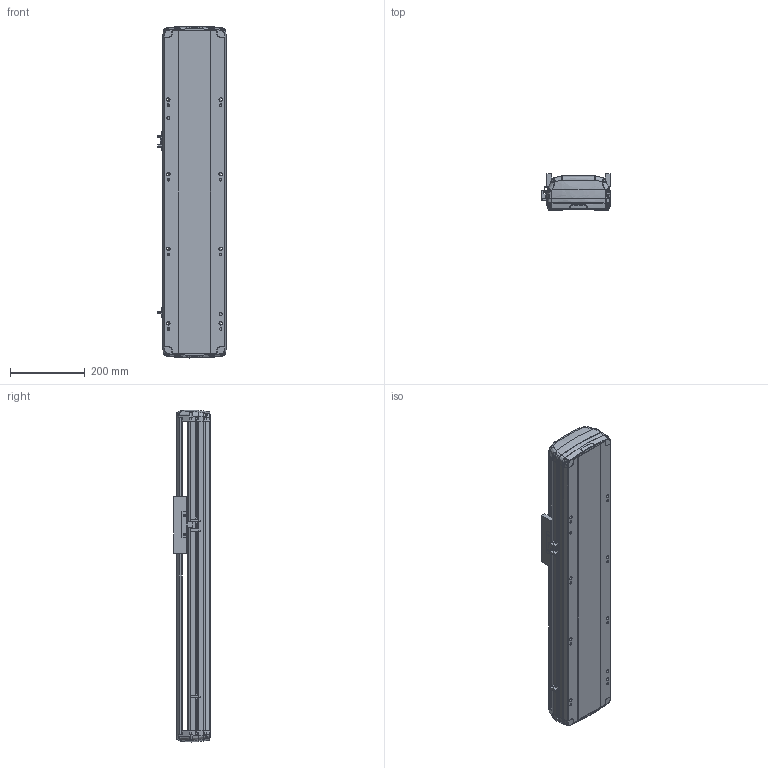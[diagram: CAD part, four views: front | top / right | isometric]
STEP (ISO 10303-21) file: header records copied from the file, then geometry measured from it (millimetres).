
FILE_DESCRIPTION (( 'STEP AP214' ), '1' );
FILE_NAME ('RTH17-XX-450-B-M40B-C4.STEP', '2025-10-24T09:11:38', ( '' ), ( '' ), 'SwSTEP 2.0', 'SolidWorks 2018', '' );
FILE_SCHEMA (( 'AUTOMOTIVE_DESIGN' ));
Length unit declared in the file: millimetre
Products named in the file (7): N_RTH17-M-007B上盖^RTH17-XX-XX-B-M40B-C4（方程式）; N_RTH17-M-011B底座^RTH17-XX-XX-B-M40B-C4（方程式）; N_RTH-L-012 感应片(外置)^RTH17-XX-XX-B-M40B-C4（方程式）; RTH17-XX-450-B-M40B-C4; N_RTH17-GY-001P^RTH17-XX-XX-B-M40B-C4（方程式）; N_RTH17-E-004丝杆螺母连接座^RTH17-XX-XX-B-M40B-C4（方程式）; N_OMRON EE-SX672 換覜ん^RTH17-XX-XX-B-M40B-C4ㄗ源最宒ㄘ
Assembly tree (9 placements, depth 2):
  RTH17-XX-450-B-M40B-C4
    N_RTH17-M-011B底座^RTH17-XX-XX-B-M40B-C4（方程式）
    N_RTH17-M-007B上盖^RTH17-XX-XX-B-M40B-C4（方程式）
    N_OMRON EE-SX672 換覜ん^RTH17-XX-XX-B-M40B-C4ㄗ源最宒ㄘ  x3
    N_RTH-L-012 感应片(外置)^RTH17-XX-XX-B-M40B-C4（方程式）
    N_RTH17-E-004丝杆螺母连接座^RTH17-XX-XX-B-M40B-C4（方程式）
    N_RTH17-GY-001P^RTH17-XX-XX-B-M40B-C4（方程式）  x2
Bounding box: 183.5 x 97 x 889.88 mm (x, y, z)
Volume: 6663091.4 mm3; surface area: 952967.9 mm2
Topology: 7 solids, 11 shells, 1704 faces, 4772 edges, 3098 vertices
Faces by surface type: plane 807, cylinder 431, bspline 420, cone 28, torus 18
Entity records: 39510 total; most frequent: CARTESIAN_POINT 16535, ORIENTED_EDGE 5048, DIRECTION 3976, EDGE_CURVE 2528, VERTEX_POINT 1652, LINE 1400, VECTOR 1400, AXIS2_PLACEMENT_3D 1288
